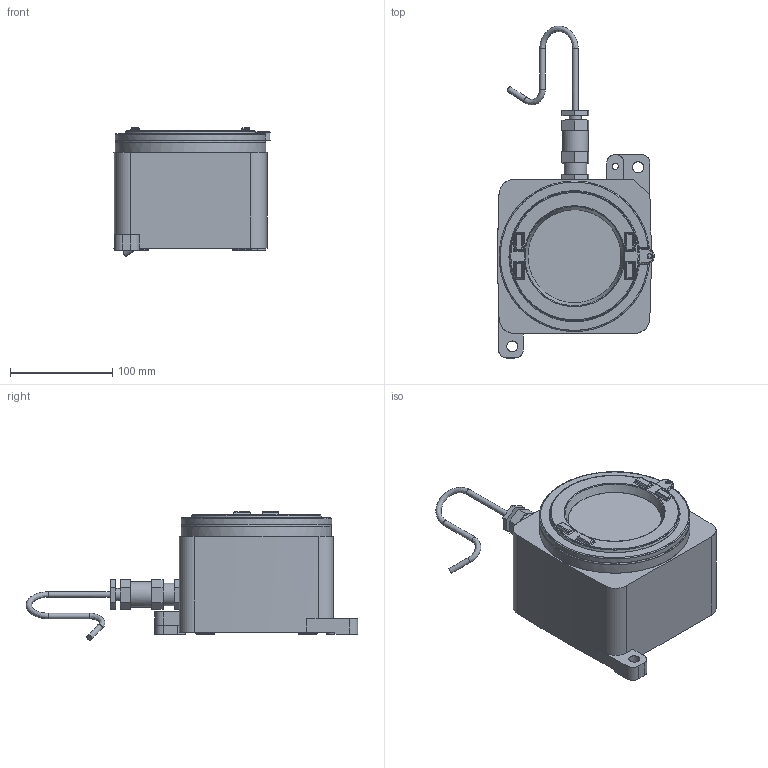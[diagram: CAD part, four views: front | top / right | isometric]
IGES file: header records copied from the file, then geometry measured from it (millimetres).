
Global section: file name: E:\lem\3DCAD_ODSL96B_EX_D.igs; native system: NX V8.5; preprocessor: SIEMENS PLM Software NX 8.5; date: 20160426.130943; units: millimetre
Bounding box: 152.94 x 324.39 x 125.5 mm (x, y, z)
Surface area: 262504.8 mm2 (no closed solid volume)
Topology: 0 solids, 0 shells, 514 faces, 3361 edges, 3297 vertices
Faces by surface type: bspline 514
